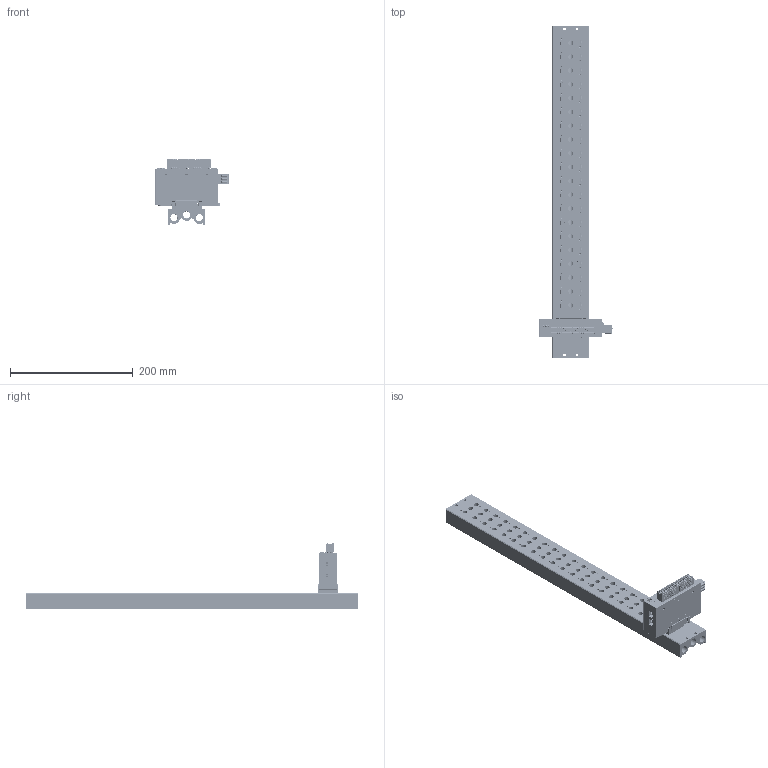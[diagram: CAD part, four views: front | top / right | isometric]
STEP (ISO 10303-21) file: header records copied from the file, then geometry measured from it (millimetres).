
FILE_DESCRIPTION(/* description */ (''),/* implementation_level */ '2;1');
FILE_NAME(/* name */ '',/* time_stamp */ '2025-10-09T15:29:20+08:00',/* author */ (''),/* organization */ (''),/* preprocessor_version */ 'ST-DEVELOPER v14',/* originating_system */ 'SIEMENS PLM Software NX 8.0',/* authorisation */ '');
FILE_SCHEMA (('AP203_CONFIGURATION_CONTROLLED_3D_DESIGN_OF_MECHANICAL_PARTS_AND_ASSEMBLIES_MIM_LF { 1 0 10303 403 2 1 2}'));
Products named in the file (1): DELL3E5857E9ub5m
Bounding box: 119.8 x 541 x 108.48 mm (x, y, z)
Volume: 684094.6 mm3; surface area: 233618.4 mm2
Topology: 2 solids, 228 shells, 10053 faces, 26618 edges, 17331 vertices
Faces by surface type: plane 6504, cylinder 2337, torus 336, bspline 328, cone 270, extrusion 183, sphere 95
Full cylindrical faces by diameter (mm): 0.18 x2, 2.5 x45, 3.05 x40, 3.3 x3, 3.5 x4, 4 x4, 4.5 x4, 6 x4, 8 x60, 9.6 x1, 11.492 x1, 11.5 x5, 11.8 x6
Entity records: 332100 total; most frequent: CARTESIAN_POINT 85332, ORIENTED_EDGE 51898, DIRECTION 49073, EDGE_CURVE 25949, VECTOR 18375, LINE 18192, VERTEX_POINT 17180, AXIS2_PLACEMENT_3D 15349
